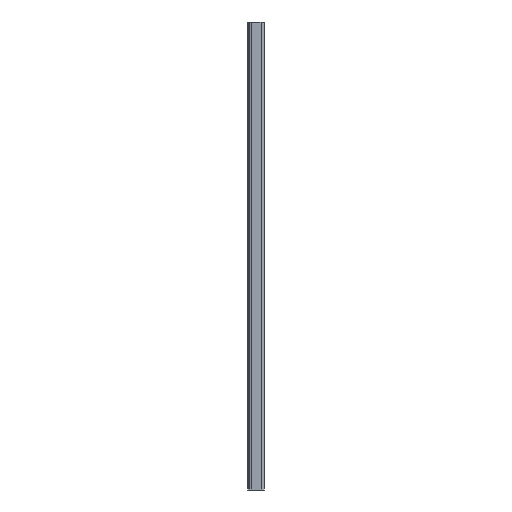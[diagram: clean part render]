
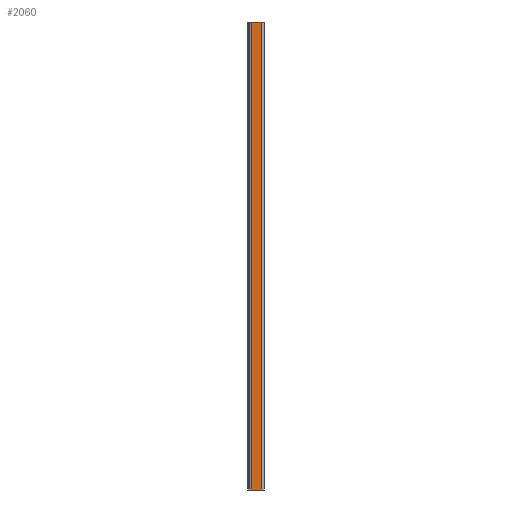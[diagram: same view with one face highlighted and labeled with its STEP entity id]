
A CAD part, left-side view. The second image highlights one B-rep face of the part: STEP entity #2060.
In plain terms, the highlighted planar face has unit normal (-1, 0, 0).
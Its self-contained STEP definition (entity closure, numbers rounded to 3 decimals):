
#32 = VERTEX_POINT ( 'NONE', #3727 ) ;
#70 = CARTESIAN_POINT ( 'NONE',  ( -2.2, -28.5, 1000. ) ) ;
#188 = LINE ( 'NONE', #3534, #2567 ) ;
#256 = EDGE_CURVE ( 'NONE', #2949, #454, #1116, .T. ) ;
#454 = VERTEX_POINT ( 'NONE', #744 ) ;
#622 = CARTESIAN_POINT ( 'NONE',  ( -2.2, -8.6, 0. ) ) ;
#690 = DIRECTION ( 'NONE',  ( 0., 0., 1. ) ) ;
#744 = CARTESIAN_POINT ( 'NONE',  ( -2.2, -8.6, 1000. ) ) ;
#805 = DIRECTION ( 'NONE',  ( -1., 0., 0. ) ) ;
#837 = EDGE_CURVE ( 'NONE', #454, #32, #3346, .T. ) ;
#843 = CARTESIAN_POINT ( 'NONE',  ( -2.2, -7., 0. ) ) ;
#868 = DIRECTION ( 'NONE',  ( 0., 1., 0. ) ) ;
#1004 = CARTESIAN_POINT ( 'NONE',  ( -2.2, -28.5, 0. ) ) ;
#1029 = VERTEX_POINT ( 'NONE', #2053 ) ;
#1116 = LINE ( 'NONE', #1496, #2537 ) ;
#1310 = EDGE_LOOP ( 'NONE', ( #2569, #1333, #3351, #2086 ) ) ;
#1333 = ORIENTED_EDGE ( 'NONE', *, *, #3750, .T. ) ;
#1496 = CARTESIAN_POINT ( 'NONE',  ( -2.2, -7., 1000. ) ) ;
#1586 = DIRECTION ( 'NONE',  ( 0., -1., 0. ) ) ;
#1626 = VECTOR ( 'NONE', #2875, 1000. ) ;
#2006 = VECTOR ( 'NONE', #690, 1000. ) ;
#2053 = CARTESIAN_POINT ( 'NONE',  ( -2.2, -28.5, 0. ) ) ;
#2060 = ADVANCED_FACE ( 'NONE', ( #3045 ), #2248, .T. ) ;
#2086 = ORIENTED_EDGE ( 'NONE', *, *, #837, .T. ) ;
#2103 = LINE ( 'NONE', #1004, #2006 ) ;
#2248 = PLANE ( 'NONE',  #2657 ) ;
#2537 = VECTOR ( 'NONE', #868, 1000. ) ;
#2567 = VECTOR ( 'NONE', #1586, 1000. ) ;
#2569 = ORIENTED_EDGE ( 'NONE', *, *, #3384, .T. ) ;
#2657 = AXIS2_PLACEMENT_3D ( 'NONE', #843, #805, #3511 ) ;
#2875 = DIRECTION ( 'NONE',  ( 0., 0., -1. ) ) ;
#2949 = VERTEX_POINT ( 'NONE', #70 ) ;
#3045 = FACE_OUTER_BOUND ( 'NONE', #1310, .T. ) ;
#3346 = LINE ( 'NONE', #622, #1626 ) ;
#3351 = ORIENTED_EDGE ( 'NONE', *, *, #256, .T. ) ;
#3384 = EDGE_CURVE ( 'NONE', #32, #1029, #188, .T. ) ;
#3511 = DIRECTION ( 'NONE',  ( 0., 0., 1. ) ) ;
#3534 = CARTESIAN_POINT ( 'NONE',  ( -2.2, -7., 0. ) ) ;
#3727 = CARTESIAN_POINT ( 'NONE',  ( -2.2, -8.6, 0. ) ) ;
#3750 = EDGE_CURVE ( 'NONE', #1029, #2949, #2103, .T. ) ;
